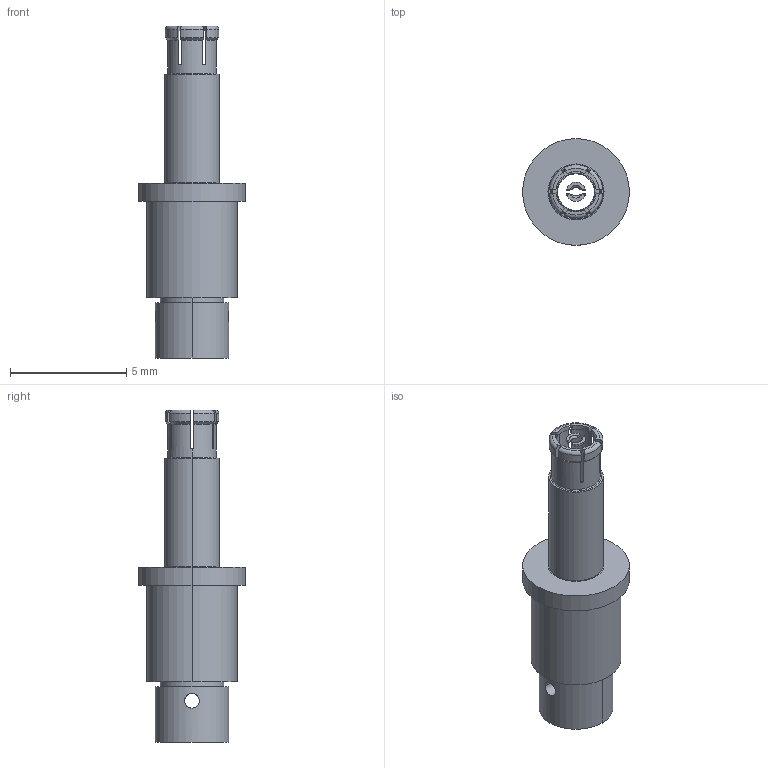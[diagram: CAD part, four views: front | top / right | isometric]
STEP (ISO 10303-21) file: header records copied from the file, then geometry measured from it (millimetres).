
FILE_DESCRIPTION (( 'STEP AP203' ), '1' );
FILE_NAME ('3221-4002.STEP', '2017-05-04T19:53:21', ( '' ), ( '' ), 'SwSTEP 2.0', 'SolidWorks 2016', '' );
FILE_SCHEMA (( 'CONFIG_CONTROL_DESIGN' ));
Length unit declared in the file: inch
Products named in the file (6): 244-32-186; 3221-4002; 012-32-041; 033-32-027; 244-32-164; 012-32-042
Assembly tree (3 placements, depth 2):
  244-32-186
  3221-4002
    012-32-041
    033-32-027
    012-32-042
  244-32-164
Bounding box: 4.6 x 4.6 x 14.3 mm (x, y, z)
Volume: 37 mm3; surface area: 315.6 mm2
Topology: 8 solids, 8 shells, 293 faces, 766 edges, 496 vertices
Faces by surface type: plane 155, cylinder 112, cone 16, torus 10
Entity records: 9881 total; most frequent: CARTESIAN_POINT 1906, DIRECTION 1620, ORIENTED_EDGE 1532, EDGE_CURVE 766, AXIS2_PLACEMENT_3D 599, VERTEX_POINT 496, VECTOR 422, LINE 422
